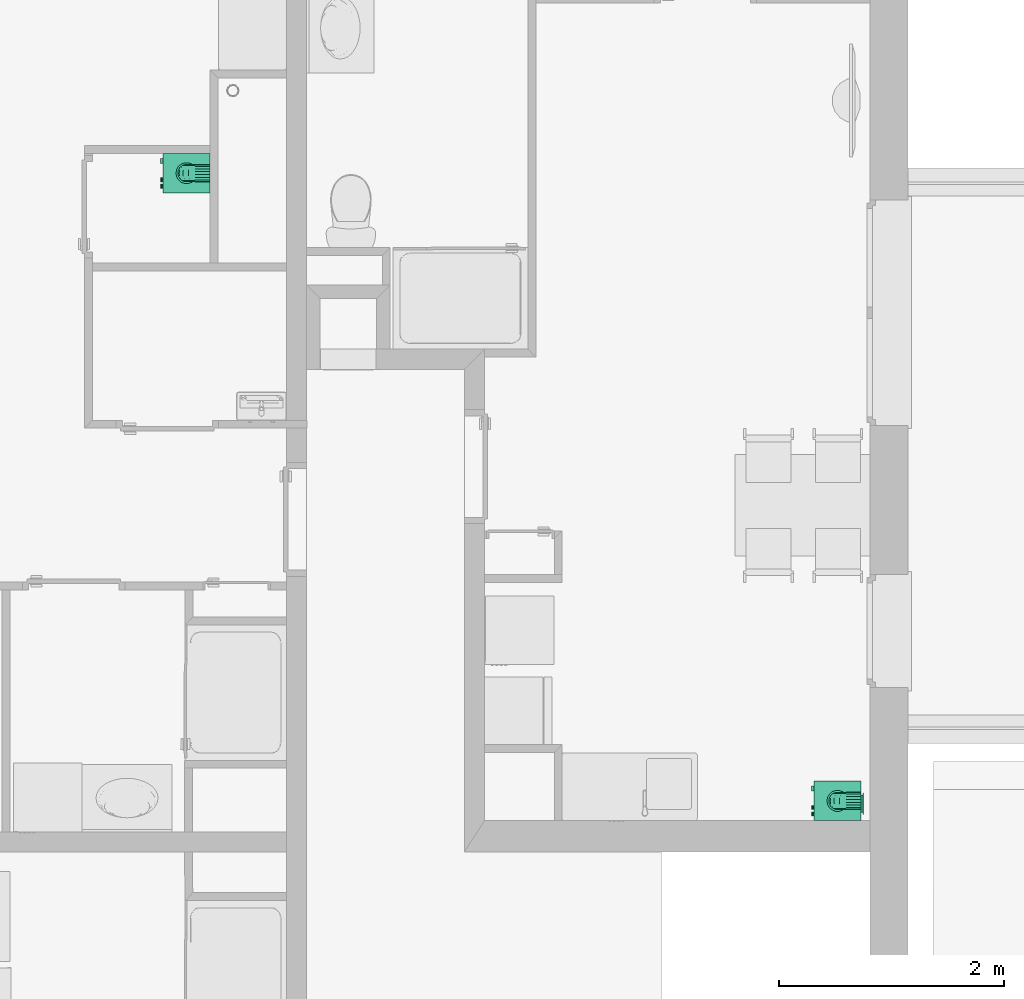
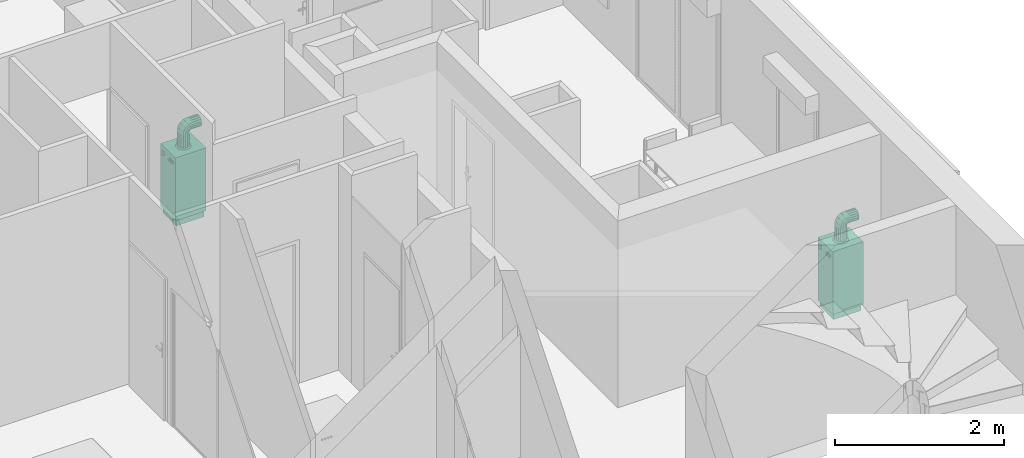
# One storey, part 111 of 164: 2 distribution elements.
"""IFC2X3 building model written with IfcOpenShell, lengths in millimetres."""

from ifc_helpers import new_model, entity, si_unit, converted_unit, derived_unit, money_unit, direction, frame, origin_with_axes, place, context, subcontext, project, spatial, open_shell, faceted_brep, surface_model, source, transform, mapped, type_object, element, save


model = new_model("IFC2X3")

# Units and contexts
model_context = context("Model", 3, precision=0.01, world=origin_with_axes(), true_north=direction((0.0, 1.0)))
body_context = subcontext(model_context, "Body", "Model", "MODEL_VIEW")
ifc_project = project(units=[si_unit("LENGTHUNIT", "METRE", prefix="MILLI"), si_unit("AREAUNIT", "SQUARE_METRE"), si_unit("VOLUMEUNIT", "CUBIC_METRE"), converted_unit("PLANEANGLEUNIT", "DEGREE", entity("IfcPlaneAngleMeasure", 0.0174532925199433), si_unit("PLANEANGLEUNIT", "RADIAN"), dimensions=[0, 0, 0, 0, 0, 0, 0]), money_unit("USD"), converted_unit("TIMEUNIT", "Year", entity("IfcTimeMeasure", 31557600.0), si_unit("TIMEUNIT", "SECOND"), dimensions=[0, 0, 1, 0, 0, 0, 0]), si_unit("MASSUNIT", "GRAM", prefix="KILO"), si_unit("THERMODYNAMICTEMPERATUREUNIT", "DEGREE_CELSIUS"), si_unit("LUMINOUSINTENSITYUNIT", "LUMEN"), si_unit("ENERGYUNIT", "JOULE", prefix="MEGA"), derived_unit("THERMALCONDUCTANCEUNIT", [(si_unit("POWERUNIT", "WATT"), 1), (si_unit("LENGTHUNIT", "METRE"), -1), (si_unit("THERMODYNAMICTEMPERATUREUNIT", "KELVIN"), -1)]), derived_unit("SPECIFICHEATCAPACITYUNIT", [(si_unit("ENERGYUNIT", "JOULE"), 1), (si_unit("MASSUNIT", "GRAM", prefix="KILO"), -1), (si_unit("THERMODYNAMICTEMPERATUREUNIT", "KELVIN"), -1)]), derived_unit("MASSDENSITYUNIT", [(si_unit("MASSUNIT", "GRAM", prefix="KILO"), 1), (si_unit("VOLUMEUNIT", "CUBIC_METRE"), -1)])], contexts=[model_context])

# Site, building, storey
site_placement = place(None, origin_with_axes())
site = spatial("IfcSite", under=ifc_project, at=site_placement, Name="Site", CompositionType="ELEMENT")
building_placement = place(site_placement, origin_with_axes())
building = spatial("IfcBuilding", under=site, at=building_placement, Name="Bâtiment", CompositionType="ELEMENT")
storey_placement = place(building_placement, frame((0.0, 0.0, 5750.0), z_axis=(0.0, 0.0, 1.0), x_axis=(1.0, 0.0, 0.0)))
storey = spatial("IfcBuildingStorey", under=building, at=storey_placement, Name="Etage1", CompositionType="ELEMENT", Elevation=5750.0)

# Distribution elements
distribution_element_type = type_object("IfcDistributionElementType", Name="Chaudière à gaz 27")
shared_shape = source(origin_with_axes(), body_context, "Body", "SurfaceModel", [
    surface_model("IfcShellBasedSurfaceModel", [(200.0, 420.0, 34.90909090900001), (180.0709335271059, 420.0, 37.53280228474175), (180.0709335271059, 438.0, 37.53280228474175), (200.0, 438.0, 34.90909090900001), (161.5, 420.0, 45.22513481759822), (161.5, 438.0, 45.22513481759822), (219.9290664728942, 420.0, 37.53280228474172), (219.9290664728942, 438.0, 37.53280228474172), (145.5527778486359, 420.0, 57.46186875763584), (145.5527778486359, 438.0, 57.46186875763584), (238.5000000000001, 420.0, 45.22513481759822), (238.5000000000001, 438.0, 45.22513481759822), (133.3160439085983, 420.0, 73.409090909), (133.3160439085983, 438.0, 73.409090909), (254.4472221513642, 420.0, 57.46186875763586), (254.4472221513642, 438.0, 57.46186875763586), (125.6237113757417, 420.0, 91.9800244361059), (125.6237113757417, 438.0, 91.9800244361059), (266.6839560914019, 420.0, 73.40909090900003), (266.6839560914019, 438.0, 73.40909090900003), (123.0, 420.0, 111.909090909), (123.0, 438.0, 111.909090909), (274.3762886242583, 420.0, 91.98002443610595), (274.3762886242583, 438.0, 91.98002443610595), (125.6237113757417, 420.0, 131.8381573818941), (125.6237113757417, 438.0, 131.8381573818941), (277.0, 420.0, 111.909090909), (277.0, 438.0, 111.909090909), (133.3160439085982, 420.0, 150.409090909), (133.3160439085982, 438.0, 150.409090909), (274.3762886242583, 420.0, 131.8381573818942), (274.3762886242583, 438.0, 131.8381573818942), (145.5527778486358, 420.0, 166.3563130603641), (145.5527778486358, 438.0, 166.3563130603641), (266.6839560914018, 420.0, 150.4090909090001), (266.6839560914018, 438.0, 150.4090909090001), (161.5, 420.0, 178.5930470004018), (161.5, 438.0, 178.5930470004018), (254.4472221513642, 420.0, 166.3563130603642), (254.4472221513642, 438.0, 166.3563130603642), (180.0709335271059, 420.0, 186.2853795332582), (180.0709335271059, 438.0, 186.2853795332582), (238.5, 420.0, 178.5930470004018), (238.5, 438.0, 178.5930470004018), (200.0, 420.0, 188.909090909), (200.0, 438.0, 188.909090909), (219.929066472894, 420.0, 186.2853795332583), (219.929066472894, 438.0, 186.2853795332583)], [open_shell([[[0, 1, 2, 3]], [[1, 4, 5, 2]], [[6, 0, 3, 7]], [[4, 8, 9, 5]], [[10, 6, 7, 11]], [[8, 12, 13, 9]], [[14, 10, 11, 15]], [[12, 16, 17, 13]], [[18, 14, 15, 19]], [[16, 20, 21, 17]], [[22, 18, 19, 23]], [[20, 24, 25, 21]], [[26, 22, 23, 27]], [[24, 28, 29, 25]], [[30, 26, 27, 31]], [[28, 32, 33, 29]], [[34, 30, 31, 35]], [[32, 36, 37, 33]], [[38, 34, 35, 39]], [[36, 40, 41, 37]], [[42, 38, 39, 43]], [[40, 44, 45, 41]], [[46, 42, 43, 47]], [[44, 46, 47, 45]]])]),
    faceted_brep([(200.0, 438.0, 14.909090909), (174.8945526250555, 438.0, 18.21428575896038), (174.8945526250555, 440.0, 18.21428575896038), (200.0, 440.0, 14.909090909), (225.1054473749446, 438.0, 18.21428575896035), (248.5000000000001, 438.0, 27.90462674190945), (268.5893577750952, 438.0, 43.31973313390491), (284.0044641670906, 438.0, 63.40909090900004), (293.6948051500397, 438.0, 86.80364353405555), (297.0000000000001, 438.0, 111.909090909), (293.6948051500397, 438.0, 137.0145382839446), (284.0044641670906, 438.0, 160.4090909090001), (268.5893577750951, 438.0, 180.4984486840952), (248.5, 438.0, 195.9135550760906), (225.1054473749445, 438.0, 205.6038960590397), (199.9999999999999, 438.0, 208.909090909), (174.8945526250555, 438.0, 205.6038960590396), (151.5, 438.0, 195.9135550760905), (131.4106422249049, 438.0, 180.4984486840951), (115.9955358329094, 438.0, 160.409090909), (106.3051948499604, 438.0, 137.0145382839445), (103.0, 438.0, 111.909090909), (106.3051948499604, 438.0, 86.80364353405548), (115.9955358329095, 438.0, 63.40909090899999), (131.4106422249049, 438.0, 43.31973313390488), (151.5, 438.0, 27.90462674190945), (200.0, 438.0, 34.90909090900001), (180.0709335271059, 438.0, 37.53280228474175), (161.5, 438.0, 45.22513481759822), (145.5527778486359, 438.0, 57.46186875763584), (133.3160439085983, 438.0, 73.409090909), (125.6237113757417, 438.0, 91.9800244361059), (123.0, 438.0, 111.909090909), (125.6237113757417, 438.0, 131.8381573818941), (133.3160439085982, 438.0, 150.409090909), (145.5527778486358, 438.0, 166.3563130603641), (161.5, 438.0, 178.5930470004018), (180.0709335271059, 438.0, 186.2853795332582), (200.0, 438.0, 188.909090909), (219.929066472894, 438.0, 186.2853795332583), (238.5, 438.0, 178.5930470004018), (254.4472221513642, 438.0, 166.3563130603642), (266.6839560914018, 438.0, 150.4090909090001), (274.3762886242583, 438.0, 131.8381573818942), (277.0, 438.0, 111.909090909), (274.3762886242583, 438.0, 91.98002443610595), (266.6839560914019, 438.0, 73.40909090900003), (254.4472221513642, 438.0, 57.46186875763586), (238.5000000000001, 438.0, 45.22513481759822), (219.9290664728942, 438.0, 37.53280228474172), (151.5, 440.0, 27.90462674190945), (131.4106422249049, 440.0, 43.31973313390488), (115.9955358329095, 440.0, 63.40909090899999), (106.3051948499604, 440.0, 86.80364353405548), (103.0, 440.0, 111.909090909), (106.3051948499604, 440.0, 137.0145382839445), (115.9955358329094, 440.0, 160.409090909), (131.4106422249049, 440.0, 180.4984486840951), (151.5, 440.0, 195.9135550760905), (174.8945526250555, 440.0, 205.6038960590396), (199.9999999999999, 440.0, 208.909090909), (225.1054473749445, 440.0, 205.6038960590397), (248.5, 440.0, 195.9135550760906), (268.5893577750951, 440.0, 180.4984486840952), (284.0044641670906, 440.0, 160.4090909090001), (293.6948051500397, 440.0, 137.0145382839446), (297.0000000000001, 440.0, 111.909090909), (293.6948051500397, 440.0, 86.80364353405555), (284.0044641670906, 440.0, 63.40909090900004), (268.5893577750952, 440.0, 43.31973313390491), (248.5000000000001, 440.0, 27.90462674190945), (225.1054473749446, 440.0, 18.21428575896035), (200.0, 440.0, 34.90909090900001), (219.9290664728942, 440.0, 37.53280228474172), (238.5000000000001, 440.0, 45.22513481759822), (254.4472221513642, 440.0, 57.46186875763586), (266.6839560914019, 440.0, 73.40909090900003), (274.3762886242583, 440.0, 91.98002443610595), (277.0, 440.0, 111.909090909), (274.3762886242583, 440.0, 131.8381573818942), (266.6839560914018, 440.0, 150.4090909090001), (254.4472221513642, 440.0, 166.3563130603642), (238.5, 440.0, 178.5930470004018), (219.929066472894, 440.0, 186.2853795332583), (200.0, 440.0, 188.909090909), (180.0709335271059, 440.0, 186.2853795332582), (161.5, 440.0, 178.5930470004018), (145.5527778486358, 440.0, 166.3563130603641), (133.3160439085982, 440.0, 150.409090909), (125.6237113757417, 440.0, 131.8381573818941), (123.0, 440.0, 111.909090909), (125.6237113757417, 440.0, 91.9800244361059), (133.3160439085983, 440.0, 73.409090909), (145.5527778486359, 440.0, 57.46186875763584), (161.5, 440.0, 45.22513481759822), (180.0709335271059, 440.0, 37.53280228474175)], [[[0, 1, 2, 3]], [[0, 4, 5, 6, 7, 8, 9, 10, 11, 12, 13, 14, 15, 16, 17, 18, 19, 20, 21, 22, 23, 24, 25, 1], [26, 27, 28, 29, 30, 31, 32, 33, 34, 35, 36, 37, 38, 39, 40, 41, 42, 43, 44, 45, 46, 47, 48, 49]], [[1, 25, 50, 2]], [[3, 2, 50, 51, 52, 53, 54, 55, 56, 57, 58, 59, 60, 61, 62, 63, 64, 65, 66, 67, 68, 69, 70, 71], [72, 73, 74, 75, 76, 77, 78, 79, 80, 81, 82, 83, 84, 85, 86, 87, 88, 89, 90, 91, 92, 93, 94, 95]], [[4, 0, 3, 71]], [[5, 4, 71, 70]], [[6, 5, 70, 69]], [[7, 6, 69, 68]], [[8, 7, 68, 67]], [[9, 8, 67, 66]], [[10, 9, 66, 65]], [[11, 10, 65, 64]], [[12, 11, 64, 63]], [[13, 12, 63, 62]], [[14, 13, 62, 61]], [[15, 14, 61, 60]], [[16, 15, 60, 59]], [[17, 16, 59, 58]], [[18, 17, 58, 57]], [[19, 18, 57, 56]], [[20, 19, 56, 55]], [[21, 20, 55, 54]], [[22, 21, 54, 53]], [[23, 22, 53, 52]], [[24, 23, 52, 51]], [[25, 24, 51, 50]], [[27, 26, 72, 95]], [[28, 27, 95, 94]], [[29, 28, 94, 93]], [[30, 29, 93, 92]], [[31, 30, 92, 91]], [[32, 31, 91, 90]], [[33, 32, 90, 89]], [[34, 33, 89, 88]], [[35, 34, 88, 87]], [[36, 35, 87, 86]], [[37, 36, 86, 85]], [[38, 37, 85, 84]], [[39, 38, 84, 83]], [[40, 39, 83, 82]], [[41, 40, 82, 81]], [[42, 41, 81, 80]], [[43, 42, 80, 79]], [[44, 43, 79, 78]], [[45, 44, 78, 77]], [[46, 45, 77, 76]], [[47, 46, 76, 75]], [[48, 47, 75, 74]], [[49, 48, 74, 73]], [[26, 49, 73, 72]]]),
    faceted_brep([(332.5, 21.0, 0.0), (17.5, 21.0, 0.0), (17.5, 399.0, 0.0), (332.5, 399.0, 0.0), (332.5, 21.0, 90.9090909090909), (17.5, 21.0, 90.9090909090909), (17.5, 399.0, 90.9090909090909), (332.5, 399.0, 90.9090909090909)], [[[0, 1, 2, 3]], [[1, 0, 4, 5]], [[2, 1, 5, 6]], [[3, 2, 6, 7]], [[0, 3, 7, 4]], [[5, 4, 7, 6]]]),
    faceted_brep([(0.0, 420.0, 90.9090909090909), (0.0, 420.0, 1000.0), (349.9999999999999, 420.0, 1000.0), (350.0, 420.0, 90.90909090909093), (0.0, 0.0, 90.9090909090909), (0.0, 0.0, 818.1818181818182), (0.0, 21.0, 818.1818181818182), (0.0, 21.0, 1000.0), (349.9999999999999, 21.0, 1000.0), (349.9999999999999, 21.0, 818.1818181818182), (349.9999999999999, 0.0, 818.1818181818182), (350.0, 0.0, 90.90909090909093)], [[[0, 1, 2, 3]], [[0, 4, 5, 6, 7, 1]], [[1, 7, 8, 2]], [[3, 2, 8, 9, 10, 11]], [[4, 0, 3, 11]], [[5, 4, 11, 10]], [[6, 5, 10, 9]], [[7, 6, 9, 8]]]),
    faceted_brep([(350.0, 0.0, 818.1818181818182), (0.0, 0.0, 818.1818181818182), (0.0, 21.0, 818.1818181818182), (350.0, 21.0, 818.1818181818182), (350.0, 0.0, 1000.0), (0.0, 0.0, 1000.0), (0.0, 21.0, 1000.0), (350.0, 21.0, 1000.0)], [[[0, 1, 2, 3]], [[1, 0, 4, 5]], [[2, 1, 5, 6]], [[3, 2, 6, 7]], [[0, 3, 7, 4]], [[5, 4, 7, 6]]]),
    faceted_brep([(251.6051342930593, 0.0, 902.4405174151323), (248.2286419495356, 0.0, 896.592261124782), (243.0555555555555, 0.0, 892.2515262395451), (236.709825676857, 0.0, 889.9418694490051), (229.9568409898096, 0.0, 889.9418694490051), (223.6111111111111, 0.0, 892.2515262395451), (218.438024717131, 0.0, 896.5922611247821), (215.0615323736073, 0.0, 902.4405174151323), (213.8888888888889, 0.0, 909.0909090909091), (215.0615323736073, 0.0, 915.741300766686), (218.438024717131, 0.0, 921.5895570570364), (223.6111111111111, 0.0, 925.9302919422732), (229.9568409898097, 0.0, 928.2399487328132), (236.709825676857, 0.0, 928.2399487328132), (243.0555555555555, 0.0, 925.9302919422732), (248.2286419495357, 0.0, 921.5895570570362), (251.6051342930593, 0.0, 915.741300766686), (252.7777777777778, 0.0, 909.0909090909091), (251.6051342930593, -19.99999999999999, 902.4405174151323), (248.2286419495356, -19.99999999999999, 896.592261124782), (243.0555555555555, -19.99999999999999, 892.2515262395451), (236.709825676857, -19.99999999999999, 889.9418694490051), (229.9568409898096, -19.99999999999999, 889.9418694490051), (223.6111111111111, -19.99999999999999, 892.2515262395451), (218.438024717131, -19.99999999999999, 896.5922611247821), (215.0615323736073, -19.99999999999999, 902.4405174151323), (213.8888888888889, -19.99999999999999, 909.0909090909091), (215.0615323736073, -19.99999999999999, 915.741300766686), (218.438024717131, -19.99999999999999, 921.5895570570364), (223.6111111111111, -19.99999999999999, 925.9302919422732), (229.9568409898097, -19.99999999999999, 928.2399487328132), (236.709825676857, -19.99999999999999, 928.2399487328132), (243.0555555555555, -19.99999999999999, 925.9302919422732), (248.2286419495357, -19.99999999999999, 921.5895570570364), (251.6051342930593, -19.99999999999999, 915.741300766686), (252.7777777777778, -19.99999999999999, 909.0909090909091)], [[[0, 1, 2, 3, 4, 5, 6, 7, 8, 9, 10, 11, 12, 13, 14, 15, 16, 17]], [[1, 0, 18, 19]], [[2, 1, 19, 20]], [[3, 2, 20, 21]], [[4, 3, 21, 22]], [[5, 4, 22, 23]], [[6, 5, 23, 24]], [[7, 6, 24, 25]], [[8, 7, 25, 26]], [[9, 8, 26, 27]], [[10, 9, 27, 28]], [[11, 10, 28, 29]], [[12, 11, 29, 30]], [[13, 12, 30, 31]], [[14, 13, 31, 32]], [[15, 14, 32, 33]], [[16, 15, 33, 34]], [[17, 16, 34, 35]], [[0, 17, 35, 18]], [[18, 35, 34, 33, 32, 31, 30, 29, 28, 27, 26, 25, 24, 23, 22, 21, 20, 19]]]),
    faceted_brep([(309.9384676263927, 0.0, 902.4405174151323), (306.561975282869, 0.0, 896.592261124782), (301.3888888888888, 0.0, 892.2515262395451), (295.0431590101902, 0.0, 889.9418694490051), (288.290174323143, 0.0, 889.9418694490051), (281.9444444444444, 0.0, 892.2515262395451), (276.7713580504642, 0.0, 896.5922611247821), (273.3948657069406, 0.0, 902.4405174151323), (272.2222222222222, 0.0, 909.0909090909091), (273.3948657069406, 0.0, 915.741300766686), (276.7713580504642, 0.0, 921.5895570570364), (281.9444444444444, 0.0, 925.9302919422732), (288.290174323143, 0.0, 928.2399487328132), (295.0431590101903, 0.0, 928.2399487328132), (301.3888888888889, 0.0, 925.9302919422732), (306.561975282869, 0.0, 921.5895570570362), (309.9384676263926, 0.0, 915.741300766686), (311.1111111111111, 0.0, 909.0909090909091), (309.9384676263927, -19.99999999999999, 902.4405174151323), (306.561975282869, -19.99999999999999, 896.592261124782), (301.3888888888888, -19.99999999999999, 892.2515262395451), (295.0431590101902, -19.99999999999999, 889.9418694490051), (288.290174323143, -19.99999999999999, 889.9418694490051), (281.9444444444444, -19.99999999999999, 892.2515262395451), (276.7713580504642, -19.99999999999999, 896.5922611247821), (273.3948657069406, -19.99999999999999, 902.4405174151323), (272.2222222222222, -19.99999999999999, 909.0909090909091), (273.3948657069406, -19.99999999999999, 915.741300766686), (276.7713580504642, -19.99999999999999, 921.5895570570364), (281.9444444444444, -19.99999999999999, 925.9302919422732), (288.290174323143, -19.99999999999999, 928.2399487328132), (295.0431590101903, -19.99999999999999, 928.2399487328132), (301.3888888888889, -19.99999999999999, 925.9302919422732), (306.561975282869, -19.99999999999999, 921.5895570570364), (309.9384676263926, -19.99999999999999, 915.741300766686), (311.1111111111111, -19.99999999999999, 909.0909090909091)], [[[0, 1, 2, 3, 4, 5, 6, 7, 8, 9, 10, 11, 12, 13, 14, 15, 16, 17]], [[1, 0, 18, 19]], [[2, 1, 19, 20]], [[3, 2, 20, 21]], [[4, 3, 21, 22]], [[5, 4, 22, 23]], [[6, 5, 23, 24]], [[7, 6, 24, 25]], [[8, 7, 25, 26]], [[9, 8, 26, 27]], [[10, 9, 27, 28]], [[11, 10, 28, 29]], [[12, 11, 29, 30]], [[13, 12, 30, 31]], [[14, 13, 31, 32]], [[15, 14, 32, 33]], [[16, 15, 33, 34]], [[17, 16, 34, 35]], [[0, 17, 35, 18]], [[18, 35, 34, 33, 32, 31, 30, 29, 28, 27, 26, 25, 24, 23, 22, 21, 20, 19]]]),
    faceted_brep([(87.5, 0.0, 878.7878787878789), (43.75, 0.0, 878.7878787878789), (43.75, 0.0, 939.3939393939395), (87.5, 0.0, 939.3939393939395), (87.5, -20.0, 878.7878787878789), (43.75, -20.0, 878.7878787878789), (43.75, -19.99999999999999, 939.3939393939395), (87.5, -19.99999999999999, 939.3939393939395)], [[[0, 1, 2, 3]], [[1, 0, 4, 5]], [[2, 1, 5, 6]], [[3, 2, 6, 7]], [[0, 3, 7, 4]], [[5, 4, 7, 6]]]),
    surface_model("IfcShellBasedSurfaceModel", [(148.6644489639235, 282.356331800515, 1220.0), (175.0, 287.0, 1220.0), (175.0, 287.0, 1020.0), (148.6644489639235, 282.356331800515, 1020.0), (201.3355510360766, 282.356331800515, 1220.0), (201.3355510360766, 282.356331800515, 1020.0), (175.0, 303.7499999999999, 1000.0), (142.9356115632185, 298.0961831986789, 1000.0), (125.5053540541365, 268.9854221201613, 1220.0), (125.5053540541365, 268.9854221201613, 1020.0), (224.4946459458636, 268.9854221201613, 1220.0), (224.4946459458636, 268.9854221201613, 1020.0), (207.0643884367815, 298.0961831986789, 1000.0), (114.7386615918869, 281.8166665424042, 1000.0), (108.3160439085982, 248.5, 1220.0), (108.3160439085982, 248.5, 1020.0), (241.6839560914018, 248.4999999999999, 1220.0), (241.6839560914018, 248.4999999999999, 1020.0), (235.2613384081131, 281.8166665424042, 1000.0), (93.81011839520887, 256.8749999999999, 1000.0), (99.16980301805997, 223.3709096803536, 1220.0), (99.16980301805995, 223.3709096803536, 1020.0), (250.8301969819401, 223.3709096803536, 1220.0), (250.83019698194, 223.3709096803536, 1020.0), (256.1898816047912, 256.8749999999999, 1000.0), (82.6742731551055, 226.2795166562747, 1000.0), (99.16980301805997, 196.6290903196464, 1220.0), (99.16980301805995, 196.6290903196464, 1020.0), (250.83019698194, 196.6290903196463, 1220.0), (250.83019698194, 196.6290903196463, 1020.0), (267.3257268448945, 226.2795166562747, 1000.0), (82.67427315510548, 193.7204833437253, 1000.0), (108.3160439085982, 171.5, 1220.0), (108.3160439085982, 171.5, 1020.0), (241.6839560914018, 171.4999999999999, 1220.0), (241.6839560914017, 171.4999999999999, 1020.0), (267.3257268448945, 193.7204833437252, 1000.0), (93.81011839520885, 163.125, 1000.0), (125.5053540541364, 151.0145778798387, 1220.0), (125.5053540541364, 151.0145778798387, 1020.0), (224.4946459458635, 151.0145778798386, 1220.0), (224.4946459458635, 151.0145778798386, 1020.0), (256.1898816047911, 163.1249999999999, 1000.0), (114.7386615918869, 138.1833334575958, 1000.0), (148.6644489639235, 137.643668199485, 1220.0), (148.6644489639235, 137.643668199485, 1020.0), (201.3355510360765, 137.643668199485, 1220.0), (201.3355510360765, 137.643668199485, 1020.0), (235.261338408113, 138.1833334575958, 1000.0), (142.9356115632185, 121.9038168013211, 1000.0), (175.0, 133.0, 1220.0), (175.0, 133.0, 1020.0), (207.0643884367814, 121.9038168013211, 1000.0), (175.0, 116.25, 1000.0)], [open_shell([[[0, 1, 2, 3]], [[1, 4, 5, 2]], [[3, 2, 6, 7]], [[8, 0, 3, 9]], [[4, 10, 11, 5]], [[2, 5, 12, 6]], [[9, 3, 7, 13]], [[14, 8, 9, 15]], [[10, 16, 17, 11]], [[5, 11, 18, 12]], [[15, 9, 13, 19]], [[20, 14, 15, 21]], [[16, 22, 23, 17]], [[11, 17, 24, 18]], [[21, 15, 19, 25]], [[26, 20, 21, 27]], [[22, 28, 29, 23]], [[17, 23, 30, 24]], [[27, 21, 25, 31]], [[32, 26, 27, 33]], [[28, 34, 35, 29]], [[23, 29, 36, 30]], [[33, 27, 31, 37]], [[38, 32, 33, 39]], [[34, 40, 41, 35]], [[29, 35, 42, 36]], [[39, 33, 37, 43]], [[44, 38, 39, 45]], [[40, 46, 47, 41]], [[35, 41, 48, 42]], [[45, 39, 43, 49]], [[50, 44, 45, 51]], [[46, 50, 51, 47]], [[41, 47, 52, 48]], [[51, 45, 49, 53]], [[47, 51, 53, 52]]])]),
    faceted_brep([(99.16980301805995, 203.5081662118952, 1254.583449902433), (99.16980301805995, 196.6290903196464, 1220.0), (108.3160439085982, 171.5, 1220.0), (108.3160439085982, 180.2919139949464, 1264.199936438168), (99.16980301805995, 228.2143857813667, 1244.349798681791), (99.16980301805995, 223.3709096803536, 1220.0), (108.3160439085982, 248.5, 1220.0), (125.5053540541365, 268.9854221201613, 1220.0), (148.6644489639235, 282.356331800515, 1220.0), (175.0, 287.0, 1220.0), (201.3355510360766, 282.356331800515, 1220.0), (224.4946459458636, 268.9854221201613, 1220.0), (241.6839560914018, 248.4999999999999, 1220.0), (250.83019698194, 223.3709096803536, 1220.0), (250.83019698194, 196.6290903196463, 1220.0), (241.6839560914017, 171.4999999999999, 1220.0), (224.4946459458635, 151.0145778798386, 1220.0), (201.3355510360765, 137.643668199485, 1220.0), (175.0, 132.9999999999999, 1220.0), (148.6644489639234, 137.643668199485, 1220.0), (125.5053540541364, 151.0145778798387, 1220.0), (125.5053540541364, 161.3658517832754, 1272.039368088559), (99.16980301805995, 223.098116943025, 1283.901883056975), (108.3160439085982, 205.3291667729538, 1301.670833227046), (99.16980301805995, 242.0074387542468, 1264.992561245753), (108.3160439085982, 251.4306379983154, 1234.733312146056), (125.5053540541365, 270.3567002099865, 1226.893880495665), (148.6644489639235, 282.7098099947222, 1221.777054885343), (201.3355510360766, 282.7098099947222, 1221.777054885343), (224.4946459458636, 270.3567002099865, 1226.893880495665), (241.6839560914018, 251.4306379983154, 1234.733312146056), (250.83019698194, 228.2143857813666, 1244.349798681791), (250.83019698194, 203.5081662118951, 1254.583449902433), (241.6839560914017, 180.2919139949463, 1264.199936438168), (224.4946459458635, 161.3658517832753, 1272.039368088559), (201.3355510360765, 149.0127419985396, 1277.15619369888), (175.0, 144.7225519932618, 1278.933248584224), (148.6644489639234, 149.0127419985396, 1277.15619369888), (125.5053540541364, 190.8437858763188, 1316.156214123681), (108.3160439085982, 242.8000635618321, 1326.708086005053), (99.16980301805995, 252.4165500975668, 1303.491833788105), (99.16980301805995, 262.6502013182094, 1278.785614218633), (108.3160439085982, 259.7763889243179, 1247.223611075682), (125.5053540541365, 274.2617698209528, 1232.738230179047), (148.6644489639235, 283.7164307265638, 1223.283569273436), (201.3355510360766, 283.7164307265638, 1223.283569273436), (224.4946459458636, 274.2617698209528, 1232.738230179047), (241.6839560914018, 259.7763889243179, 1247.223611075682), (250.83019698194, 242.0074387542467, 1264.992561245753), (250.83019698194, 223.0981169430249, 1283.901883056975), (241.6839560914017, 205.3291667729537, 1301.670833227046), (224.4946459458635, 190.8437858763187, 1316.156214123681), (201.3355510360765, 181.3891249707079, 1325.610875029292), (175.0, 178.1055556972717, 1328.894444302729), (148.6644489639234, 181.3891249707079, 1325.610875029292), (125.5053540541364, 234.9606319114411, 1345.634148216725), (108.3160439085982, 287.0000000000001, 1335.5), (99.16980301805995, 287.0000000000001, 1310.370909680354), (99.16980301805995, 287.0000000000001, 1283.629090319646), (108.3160439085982, 272.266687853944, 1255.569362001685), (125.5053540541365, 280.1061195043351, 1236.643299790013), (148.6644489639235, 285.2229451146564, 1224.290190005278), (201.3355510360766, 285.2229451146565, 1224.290190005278), (224.4946459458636, 280.1061195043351, 1236.643299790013), (241.6839560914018, 272.266687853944, 1255.569362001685), (250.83019698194, 262.6502013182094, 1278.785614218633), (250.83019698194, 252.4165500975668, 1303.491833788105), (241.6839560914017, 242.8000635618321, 1326.708086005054), (224.4946459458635, 234.9606319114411, 1345.634148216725), (201.3355510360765, 229.8438063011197, 1357.98725800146), (175.0, 228.0667514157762, 1362.277448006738), (148.6644489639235, 229.8438063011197, 1357.98725800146), (125.5053540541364, 287.0000000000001, 1355.985422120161), (108.3160439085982, 287.0, 1258.5), (148.6644489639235, 287.0000000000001, 1369.356331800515), (175.0, 287.0000000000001, 1374.0), (201.3355510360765, 287.0000000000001, 1369.356331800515), (224.4946459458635, 287.0000000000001, 1355.985422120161), (241.6839560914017, 287.0000000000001, 1335.5), (250.83019698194, 287.0000000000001, 1310.370909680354), (250.83019698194, 287.0000000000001, 1283.629090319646), (241.6839560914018, 287.0, 1258.5), (224.4946459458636, 287.0, 1238.014577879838), (201.3355510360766, 287.0, 1224.643668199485), (148.6644489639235, 287.0, 1224.643668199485), (125.5053540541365, 287.0, 1238.014577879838)], [[[0, 1, 2, 3]], [[1, 0, 4, 5]], [[2, 1, 5, 6, 7, 8, 9, 10, 11, 12, 13, 14, 15, 16, 17, 18, 19, 20]], [[3, 2, 20, 21]], [[22, 0, 3, 23]], [[0, 22, 24, 4]], [[6, 5, 4, 25]], [[26, 7, 6, 25]], [[7, 26, 27, 8]], [[8, 27, 9]], [[28, 10, 9]], [[10, 28, 29, 11]], [[11, 29, 30, 12]], [[31, 13, 12, 30]], [[14, 13, 31, 32]], [[33, 15, 14, 32]], [[15, 33, 34, 16]], [[35, 17, 16, 34]], [[36, 18, 17, 35]], [[19, 18, 36, 37]], [[21, 20, 19, 37]], [[23, 3, 21, 38]], [[22, 23, 39, 40]], [[24, 22, 40, 41]], [[4, 24, 42, 25]], [[43, 26, 25, 42]], [[26, 43, 44, 27]], [[27, 44, 9]], [[45, 28, 9]], [[28, 45, 46, 29]], [[29, 46, 47, 30]], [[31, 30, 47, 48]], [[49, 32, 31, 48]], [[32, 49, 50, 33]], [[51, 34, 33, 50]], [[35, 34, 51, 52]], [[53, 36, 35, 52]], [[54, 37, 36, 53]], [[38, 21, 37, 54]], [[39, 23, 38, 55]], [[40, 39, 56, 57]], [[41, 40, 57, 58]], [[59, 42, 24, 41]], [[42, 59, 60, 43]], [[43, 60, 61, 44]], [[44, 61, 9]], [[62, 45, 9]], [[45, 62, 63, 46]], [[46, 63, 64, 47]], [[65, 48, 47, 64]], [[66, 49, 48, 65]], [[50, 49, 66, 67]], [[68, 51, 50, 67]], [[52, 51, 68, 69]], [[53, 52, 69, 70]], [[71, 54, 53, 70]], [[55, 38, 54, 71]], [[56, 39, 55, 72]], [[73, 58, 57, 56, 72, 74, 75, 76, 77, 78, 79, 80, 81, 82, 83, 9, 84, 85]], [[59, 41, 58, 73]], [[59, 73, 85, 60]], [[60, 85, 84, 61]], [[61, 84, 9]], [[62, 9, 83]], [[63, 62, 83, 82]], [[63, 82, 81, 64]], [[65, 64, 81, 80]], [[66, 65, 80, 79]], [[67, 66, 79, 78]], [[77, 68, 67, 78]], [[68, 77, 76, 69]], [[70, 69, 76, 75]], [[74, 71, 70, 75]], [[72, 55, 71, 74]]]),
    surface_model("IfcShellBasedSurfaceModel", [(102.6436681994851, 420.0, 1323.335551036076), (98.0, 420.0, 1297.0), (97.99999999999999, 287.0, 1297.0), (102.643668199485, 287.0, 1323.335551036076), (102.643668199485, 420.0, 1270.664448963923), (102.643668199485, 287.0, 1270.664448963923), (116.0145778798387, 420.0, 1346.494645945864), (116.0145778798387, 287.0, 1346.494645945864), (116.0145778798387, 420.0, 1247.505354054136), (116.0145778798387, 287.0, 1247.505354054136), (136.5, 420.0, 1363.683956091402), (136.5, 287.0, 1363.683956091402), (136.5, 420.0, 1230.316043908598), (136.5, 287.0, 1230.316043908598), (161.6290903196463, 420.0, 1372.83019698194), (161.6290903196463, 287.0, 1372.83019698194), (161.6290903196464, 420.0, 1221.16980301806), (161.6290903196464, 287.0, 1221.16980301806), (188.3709096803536, 420.0, 1372.83019698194), (188.3709096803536, 287.0, 1372.83019698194), (188.3709096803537, 420.0, 1221.16980301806), (188.3709096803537, 287.0, 1221.16980301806), (213.5, 420.0, 1363.683956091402), (213.5, 287.0, 1363.683956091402), (213.5000000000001, 420.0, 1230.316043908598), (213.5, 287.0, 1230.316043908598), (233.9854221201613, 420.0, 1346.494645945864), (233.9854221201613, 287.0, 1346.494645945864), (233.9854221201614, 420.0, 1247.505354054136), (233.9854221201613, 287.0, 1247.505354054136), (247.356331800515, 420.0, 1323.335551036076), (247.3563318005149, 287.0, 1323.335551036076), (247.356331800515, 420.0, 1270.664448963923), (247.356331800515, 287.0, 1270.664448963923), (252.0, 420.0, 1297.0), (252.0, 287.0, 1297.0)], [open_shell([[[0, 1, 2, 3]], [[1, 4, 5, 2]], [[6, 0, 3, 7]], [[4, 8, 9, 5]], [[10, 6, 7, 11]], [[8, 12, 13, 9]], [[14, 10, 11, 15]], [[12, 16, 17, 13]], [[18, 14, 15, 19]], [[16, 20, 21, 17]], [[22, 18, 19, 23]], [[20, 24, 25, 21]], [[26, 22, 23, 27]], [[24, 28, 29, 25]], [[30, 26, 27, 31]], [[28, 32, 33, 29]], [[34, 30, 31, 35]], [[32, 34, 35, 33]]])]),
])
for number, where, z_axis, x_axis, name in (
    (1, (2223036.480163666, -626411.211384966, 0.0), (0.0, 0.0, 1.0), (-4.963571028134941e-06, -0.9999999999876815, 0.0), "Obj.-003"),
    (2, (2228815.50090634, -631983.8455070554, 0.0), (0.0, 0.0, 1.0), (0.0007874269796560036, -0.9999996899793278, 0.0), "Obj.-003"),
):
    element("IfcDistributionElement", number, at=place(storey_placement, frame(where, z_axis=z_axis, x_axis=x_axis)), inside=storey, type_object=distribution_element_type, Name=name, context=body_context, shape_type="MappedRepresentation", body=[
        mapped(shared_shape, transform((0.0, 0.0, 0.0))),
    ])

save(model, "model.ifc")
